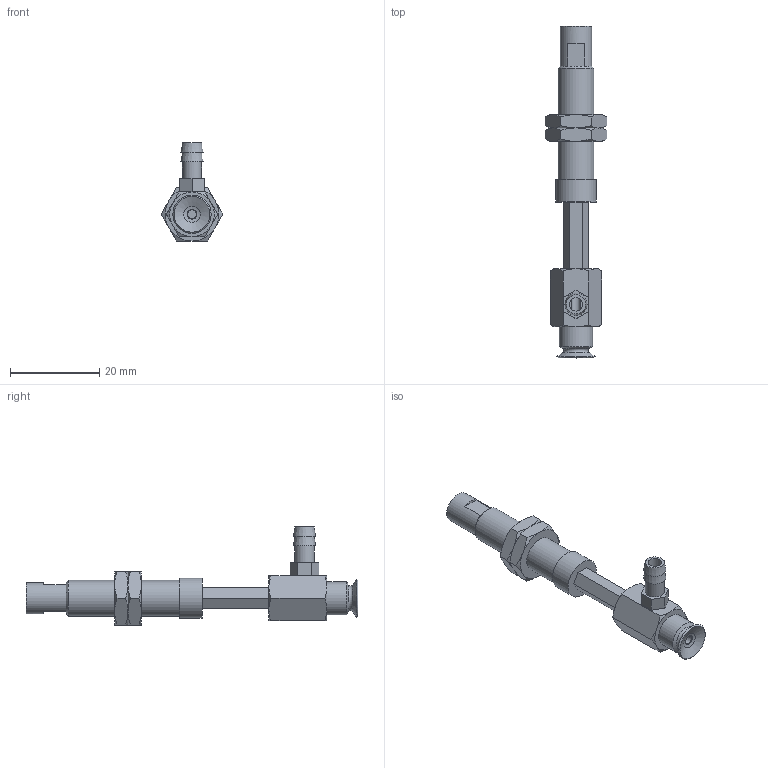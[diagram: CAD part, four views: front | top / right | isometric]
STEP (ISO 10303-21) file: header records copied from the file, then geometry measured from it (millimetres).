
FILE_DESCRIPTION(('STEP AP203'),'1');
FILE_NAME('-T.stp','2025-04-10T03:17:31',(' '),(' '),'Spatial InterOp 3D',' ',' ');
FILE_SCHEMA(('CONFIG_CONTROL_DESIGN'));
Length unit declared in the file: millimetre
Products named in the file (7): BNABPFYH-8A-15-※-T; CONNECTOR-H-8A-15; Nut-8A-15-h; NAPFTH-8A-15-FBODY; NAPFTH-8A-15-MBODY; BPFG-8A-※; T
Assembly tree (7 placements, depth 2):
  BNABPFYH-8A-15-※-T
    CONNECTOR-H-8A-15
    Nut-8A-15-h  x2
    NAPFTH-8A-15-FBODY
    NAPFTH-8A-15-MBODY
    BPFG-8A-※
    T
Bounding box: 13.86 x 74.5 x 22 mm (x, y, z)
Volume: 4000.4 mm3; surface area: 5147.8 mm2
Topology: 7 solids, 7 shells, 157 faces, 337 edges, 206 vertices
Faces by surface type: plane 74, cone 54, cylinder 18, torus 10, bspline 1
Full cylindrical faces by diameter (mm): 2 x2, 3 x1, 4 x2, 4.134 x2, 4.3 x1, 5 x2, 6 x2, 7 x1, 7.188 x2, 7.5 x1, 8 x1, 9 x1
Entity records: 3949 total; most frequent: CARTESIAN_POINT 925, DIRECTION 556, ORIENTED_EDGE 476, EDGE_CURVE 238, AXIS2_PLACEMENT_3D 231, EDGE_LOOP 200, VERTEX_POINT 170, FACE_OUTER_BOUND 162
